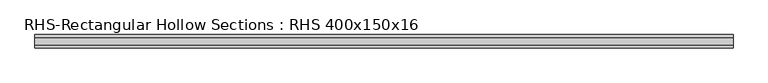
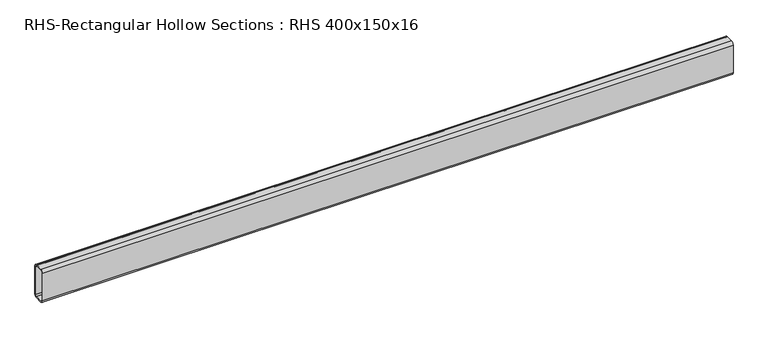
"""IFC4 building model written with IfcOpenShell, lengths in millimetres: beam geometry, RHS-Rectangular Hollow Sections : RHS 400x150x16."""

from ifc_helpers import new_model, si_unit, point, frame, frame_2d, origin, place, context, project, spatial, polyline, circle_curve, trimmed, segment, composite_curve, outline, extrude, source, transform, mapped, element, save


def rhs_rectangular_hollow_sections_rhs_400x150x16_02b2573c(model_context):
    return source(origin(), model_context, "Body", "SweptSolid", [
        extrude(outline(composite_curve([segment(polyline([(75.0, 168.0), (75.0, -168.0)]), True, "CONTINUOUS"), segment(trimmed(circle_curve(frame_2d((43.0, -168.0)), 32.0), [point((75.0, -168.0))], [point((43.0, -200.0))], False, "CARTESIAN"), True, "CONTINUOUS"), segment(polyline([(43.0, -200.0), (-43.0, -200.0)]), True, "CONTINUOUS"), segment(trimmed(circle_curve(frame_2d((-43.0, -168.0)), 32.0), [point((-43.0, -200.0))], [point((-75.0, -168.0))], False, "CARTESIAN"), True, "CONTINUOUS"), segment(polyline([(-75.0, -168.0), (-75.0, 168.0)]), True, "CONTINUOUS"), segment(trimmed(circle_curve(frame_2d((-43.0, 168.0)), 32.0), [point((-75.0, 168.0))], [point((-43.0, 200.0))], False, "CARTESIAN"), True, "CONTINUOUS"), segment(polyline([(-43.0, 200.0), (43.0, 200.0)]), True, "CONTINUOUS"), segment(trimmed(circle_curve(frame_2d((43.0, 168.0)), 32.0), [point((43.0, 200.0))], [point((75.0, 168.0))], False, "CARTESIAN"), True, "CONTINUOUS")], self_intersect=False), holes=[composite_curve([segment(trimmed(circle_curve(frame_2d((-43.0, 168.0)), 16.0), [point((-43.0, 184.0))], [point((-59.0, 168.0))], True, "CARTESIAN"), True, "CONTINUOUS"), segment(polyline([(-59.0, 168.0), (-59.0, -168.0)]), True, "CONTINUOUS"), segment(trimmed(circle_curve(frame_2d((-43.0, -168.0)), 16.0), [point((-59.0, -168.0))], [point((-43.0, -184.0))], True, "CARTESIAN"), True, "CONTINUOUS"), segment(polyline([(-43.0, -184.0), (43.0, -184.0)]), True, "CONTINUOUS"), segment(trimmed(circle_curve(frame_2d((43.0, -168.0)), 16.0), [point((43.0, -184.0))], [point((59.0, -168.0))], True, "CARTESIAN"), True, "CONTINUOUS"), segment(polyline([(59.0, -168.0), (59.0, 168.0)]), True, "CONTINUOUS"), segment(trimmed(circle_curve(frame_2d((43.0, 168.0)), 16.0), [point((59.0, 168.0))], [point((43.0, 184.0))], True, "CARTESIAN"), True, "CONTINUOUS"), segment(polyline([(43.0, 184.0), (-43.0, 184.0)]), True, "CONTINUOUS")], self_intersect=False)]), frame((-3975.0, 0.0, 0.0), z_axis=(1.0, 0.0, 0.0), x_axis=(0.0, 1.0, 0.0)), (0.0, 0.0, 1.0), 7916.0),
    ])


if __name__ == "__main__":
    model = new_model("IFC4")
    model_context = context("Model", 3, world=origin())
    ifc_project = project(units=[si_unit("LENGTHUNIT", "METRE", prefix="MILLI")], contexts=[model_context])
    site = spatial("IfcSite", under=ifc_project)
    building = spatial("IfcBuilding", under=site)
    placement = place(None, origin())
    rhs_rectangular_hollow_sections_rhs_400x150x16_shape = rhs_rectangular_hollow_sections_rhs_400x150x16_02b2573c(model_context)
    element("IfcBeam", 1, ObjectType="RHS-Rectangular Hollow Sections : RHS 400x150x16", at=placement, inside=building, context=model_context, shape_type="MappedRepresentation", body=[
        mapped(rhs_rectangular_hollow_sections_rhs_400x150x16_shape, transform((0.0, 0.0, 0.0), x_axis=(1.0, 0.0, 0.0), y_axis=(0.0, 1.0, 0.0), z_axis=(0.0, 0.0, 1.0))),
    ])
    save(model, "model.ifc")
